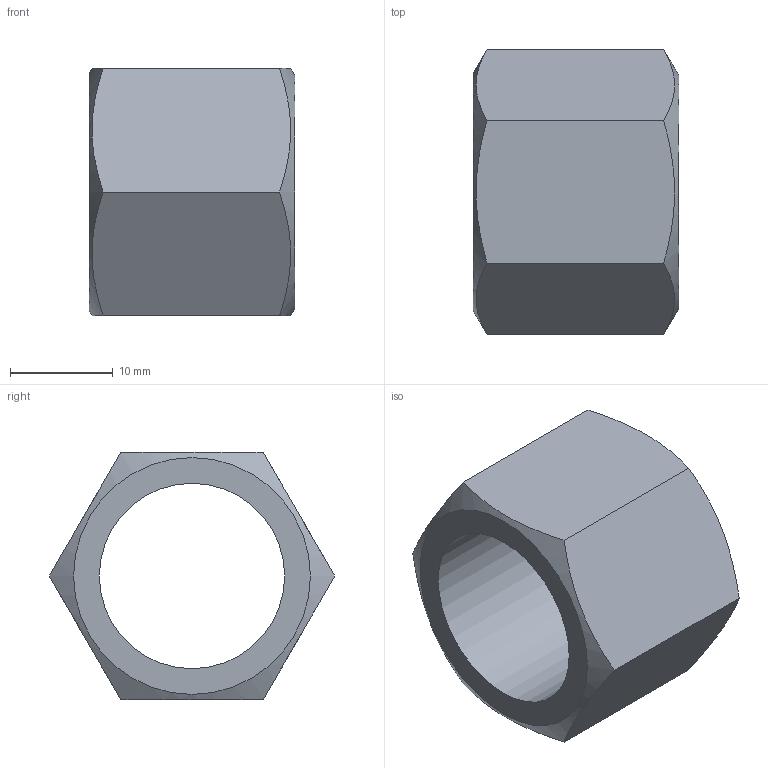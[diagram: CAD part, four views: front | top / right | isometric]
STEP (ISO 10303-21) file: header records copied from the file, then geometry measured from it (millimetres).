
FILE_DESCRIPTION(('HOOPS Exchange Step'),'2;1');
FILE_NAME('/private/var/mobile/Containers/Data/Application/1606885C-1F6A-4C16-ADE5-2EBBFD4A2795/tmp/export/temp_export','2024-08-12T09:01:43+02:00',('mobile'),('Shapr3D Limited'),'HOOPS Exchange 2024.2','Shapr3D','Authorized');
FILE_SCHEMA( ('AP242_MANAGED_MODEL_BASED_3D_ENGINEERING_MIM_LF {1 0 10303 442 1 1 4 }') );
Length unit declared in the file: millimetre
Products named in the file (2): MF1/2“; root
Assembly tree (1 placements, depth 2):
  root
    MF1/2“
Bounding box: 20 x 27.71 x 24 mm (x, y, z)
Volume: 4808.5 mm3; surface area: 3191.2 mm2
Topology: 1 solids, 1 shells, 11 faces, 27 edges, 18 vertices
Faces by surface type: plane 8, cone 2, cylinder 1
Full cylindrical faces by diameter (mm): 18 x1
Entity records: 614 total; most frequent: CARTESIAN_POINT 306, ORIENTED_EDGE 54, DIRECTION 51, EDGE_CURVE 27, AXIS2_PLACEMENT_3D 21, VERTEX_POINT 18, EDGE_LOOP 13, FACE_BOUND 13
